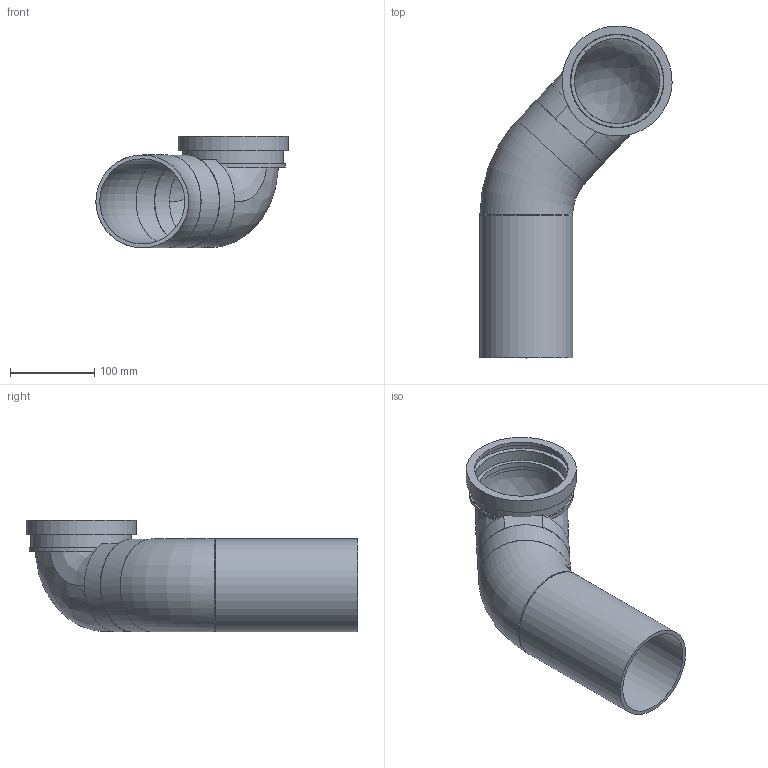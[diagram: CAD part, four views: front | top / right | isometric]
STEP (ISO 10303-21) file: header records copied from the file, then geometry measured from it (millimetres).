
FILE_DESCRIPTION(/* description */ (''),/* implementation_level */ '2;1');
FILE_NAME(/* name */ 'Z:\Geberit\Export\NewStep\367901.stp',/* time_stamp */ '2014-04-02T07:59:09+02:00',/* author */ ('ML'),/* organization */ (''),/* preprocessor_version */ 'ST-DEVELOPER v15.2',/* originating_system */ 'Autodesk Inventor 2014',/* authorisation */ '');
FILE_SCHEMA (('AUTOMOTIVE_DESIGN { 1 0 10303 214 3 1 1 }'));
Length unit declared in the file: millimetre
Products named in the file (3): 367493; 387446; 367901
Bounding box: 228.7 x 394.81 x 132.7 mm (x, y, z)
Volume: 676980.7 mm3; surface area: 317947.7 mm2
Topology: 3 solids, 3 shells, 48 faces, 103 edges, 65 vertices
Faces by surface type: bspline 16, cylinder 14, plane 14, cone 2, torus 2
Full cylindrical faces by diameter (mm): 101.35 x1, 101.4 x2, 110 x1, 110.4 x1, 111.5 x2, 120 x1, 122.4 x1, 124 x1, 131 x1
Entity records: 2393 total; most frequent: CARTESIAN_POINT 1382, ORIENTED_EDGE 186, DIRECTION 158, EDGE_CURVE 87, AXIS2_PLACEMENT_3D 74, EDGE_LOOP 73, VERTEX_POINT 64, STYLED_ITEM 51
